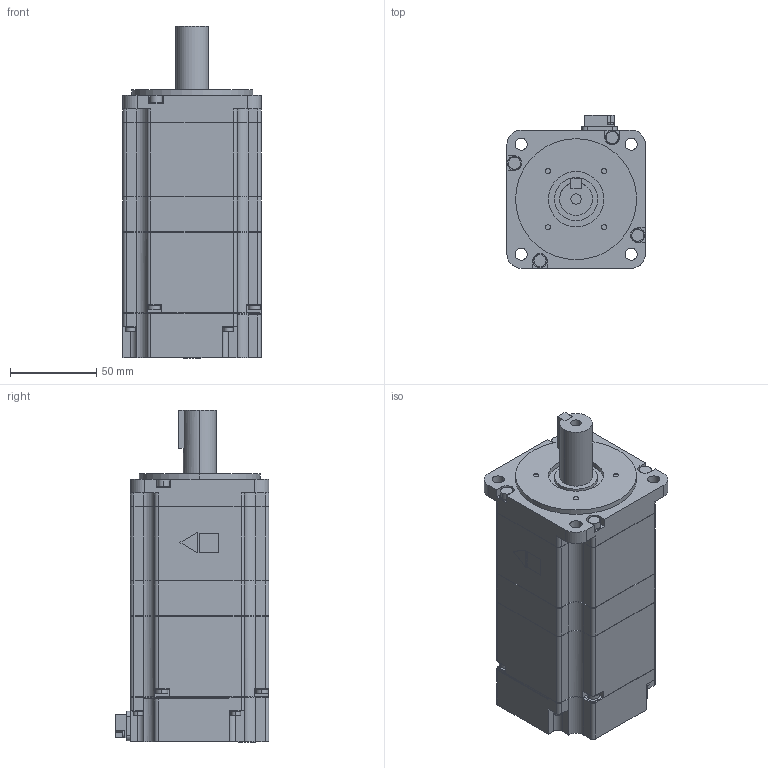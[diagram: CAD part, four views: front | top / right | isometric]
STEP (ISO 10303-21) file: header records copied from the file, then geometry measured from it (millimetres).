
FILE_DESCRIPTION (( 'STEP AP203' ), '1' );
FILE_NAME ('sgm7a_08a6a6c.STEP', '2016-11-12T04:45:11', ( '匠エンジニアリング山之内' ), ( 'TAKUMI-Engniaring' ), 'SwSTEP 2.0', 'SolidWorks 2006303', '' );
FILE_SCHEMA (( 'CONFIG_CONTROL_DESIGN' ));
Length unit declared in the file: millimetre
Products named in the file (3): sgm7a_08a6a6c; sgm7a_08a6a6c_base; sgm7a_08a6a6c_key
Assembly tree (2 placements, depth 2):
  sgm7a_08a6a6c
    sgm7a_08a6a6c_key
    sgm7a_08a6a6c_base
Bounding box: 80.1 x 88.8 x 192.1 mm (x, y, z)
Volume: 877045 mm3; surface area: 69015.3 mm2
Topology: 2 solids, 2 shells, 530 faces, 1384 edges, 912 vertices
Faces by surface type: plane 301, cylinder 229
Entity records: 16694 total; most frequent: DIRECTION 2927, CARTESIAN_POINT 2861, ORIENTED_EDGE 2768, EDGE_CURVE 1384, AXIS2_PLACEMENT_3D 1010, VERTEX_POINT 912, VECTOR 907, LINE 907
